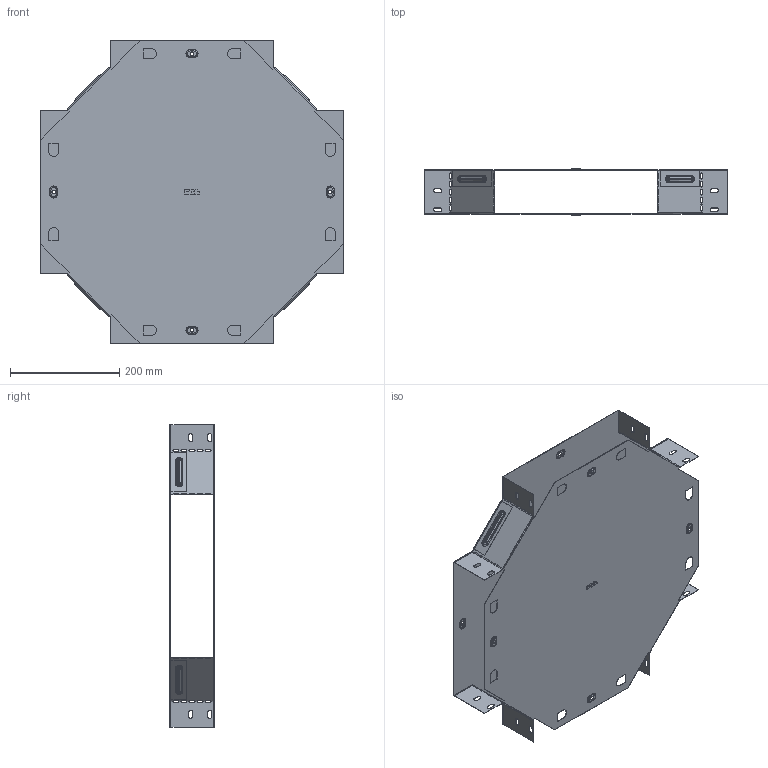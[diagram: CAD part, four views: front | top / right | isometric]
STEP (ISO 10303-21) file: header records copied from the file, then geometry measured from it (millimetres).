
FILE_DESCRIPTION (( 'STEP AP214' ), '1' );
FILE_NAME ('x8030008_捘.STEP', '2019-06-10T07:51:04', ( '砐錪賧瘔蠈錪 Windows' ), ( '' ), 'SwSTEP 2.0', 'SolidWorks 2018', '' );
FILE_SCHEMA (( 'AUTOMOTIVE_DESIGN' ));
Length unit declared in the file: millimetre
Products named in the file (1): x8030008_捘
Bounding box: 555.01 x 83.8 x 555.01 mm (x, y, z)
Volume: 456992.2 mm3; surface area: 1148874.4 mm2
Topology: 2 solids, 2 shells, 982 faces, 2898 edges, 1884 vertices
Faces by surface type: plane 510, cylinder 326, torus 128, bspline 18
Entity records: 33857 total; most frequent: CARTESIAN_POINT 6723, ORIENTED_EDGE 5796, DIRECTION 5636, EDGE_CURVE 2898, VECTOR 2018, LINE 2018, VERTEX_POINT 1884, AXIS2_PLACEMENT_3D 1809
